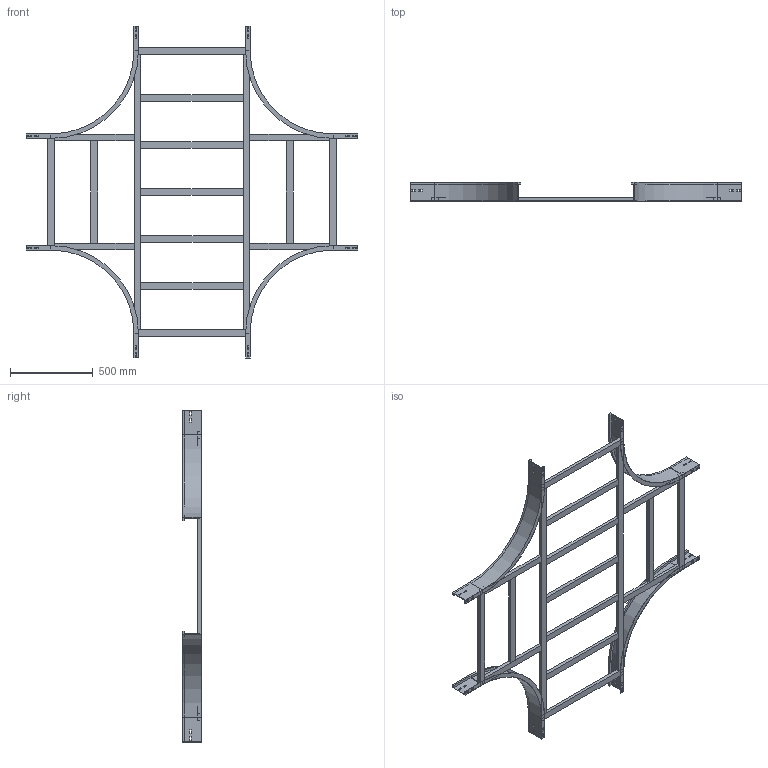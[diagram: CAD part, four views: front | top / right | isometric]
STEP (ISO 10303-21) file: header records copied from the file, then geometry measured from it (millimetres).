
FILE_DESCRIPTION (( 'STEP AP214' ), '1' );
FILE_NAME ('17B5J700.step', '2025-02-21T15:56:20', ( '' ), ( '' ), 'SwSTEP 2.0', 'SolidWorks 2023', '' );
FILE_SCHEMA (( 'AUTOMOTIVE_DESIGN' ));
Length unit declared in the file: millimetre
Products named in the file (7): TRAVERSINO_VERT_R500; TRAVERSINO_LONG._R500+700; TRAVERSINO_COPPIA_700; 17B5J700; LONGH.INTERNO 90°_H112.5_R500; TRAVERSINO_INTERMEDIO_R500+700; TRAVERSINO_700
Assembly tree (21 placements, depth 2):
  17B5J700
    LONGH.INTERNO 90°_H112.5_R500  x4
    TRAVERSINO_700  x4
    TRAVERSINO_LONG._R500+700  x2
    TRAVERSINO_INTERMEDIO_R500+700  x5
    TRAVERSINO_VERT_R500  x4
    TRAVERSINO_COPPIA_700  x2
Bounding box: 2000 x 112.5 x 2000 mm (x, y, z)
Volume: 12027050.5 mm3; surface area: 2877427.6 mm2
Topology: 21 solids, 21 shells, 334 faces, 812 edges, 520 vertices
Faces by surface type: plane 318, cylinder 16
Entity records: 2868 total; most frequent: CARTESIAN_POINT 460, DIRECTION 444, ORIENTED_EDGE 424, EDGE_CURVE 212, VECTOR 204, LINE 204, VERTEX_POINT 136, AXIS2_PLACEMENT_3D 120
